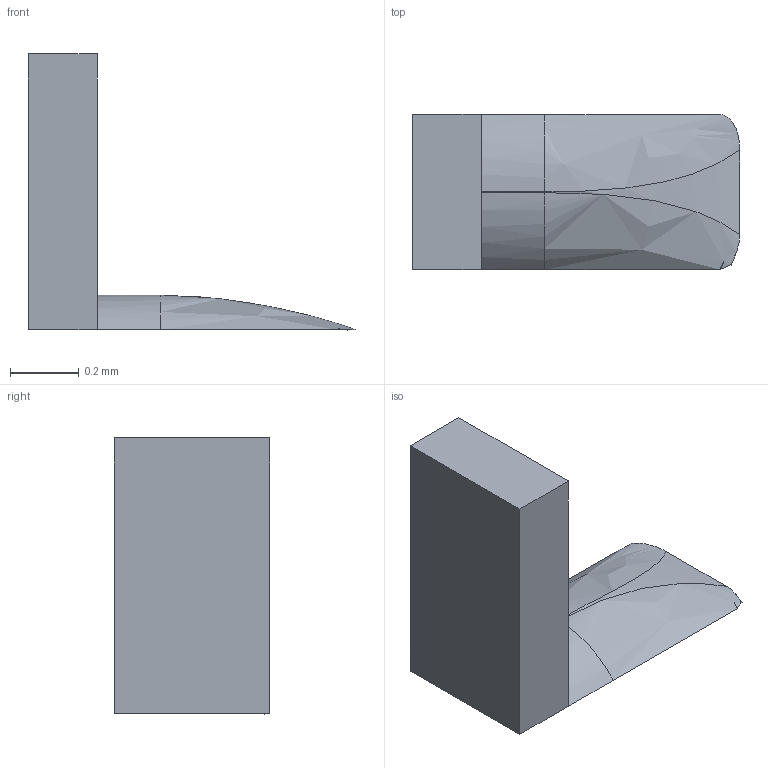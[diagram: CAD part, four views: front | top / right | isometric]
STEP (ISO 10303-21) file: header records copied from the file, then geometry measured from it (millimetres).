
FILE_DESCRIPTION(/* description */ ('STEP AP242 Edition 2','CAx-IF Rec.Pracs.---Representation and Presentation of Product Manufacturing Information (PMI)---4.0---2014-10-13','CAx-IF Rec.Pracs.---3D Tessellated Geometry---0.4---2014-09-14','2;1','CAx-IF Rec.Pracs.---User Defined Attributes---1.5---2016-08-15'),/* implementation_level */ '2;1');
FILE_NAME(/* name */ 'Drone Layout - Surface 245',/* time_stamp */ '2026-10-04T22:22:53Z',/* author */ (''),/* organization */ (''),/* preprocessor_version */ 'ST-DEVELOPER v20',/* originating_system */ 'ONSHAPE BY PTC INC, 1.221',/* authorisation */ ' ');
FILE_SCHEMA (('AP242_MANAGED_MODEL_BASED_3D_ENGINEERING_MIM_LF { 1 0 10303 442 3 1 4 }'));
Length unit declared in the file: metre
Products named in the file (1): respack:1__pad_1
Bounding box: 0.95 x 0.45 x 0.8 mm (x, y, z)
Volume: 0.1 mm3; surface area: 1.9 mm2
Topology: 1 solids, 1 shells, 12 faces, 28 edges, 18 vertices
Faces by surface type: plane 7, cylinder 3, bspline 2
Entity records: 401 total; most frequent: CARTESIAN_POINT 131, ORIENTED_EDGE 56, DIRECTION 44, EDGE_CURVE 28, LINE 18, VECTOR 18, VERTEX_POINT 18, AXIS2_PLACEMENT_3D 13
